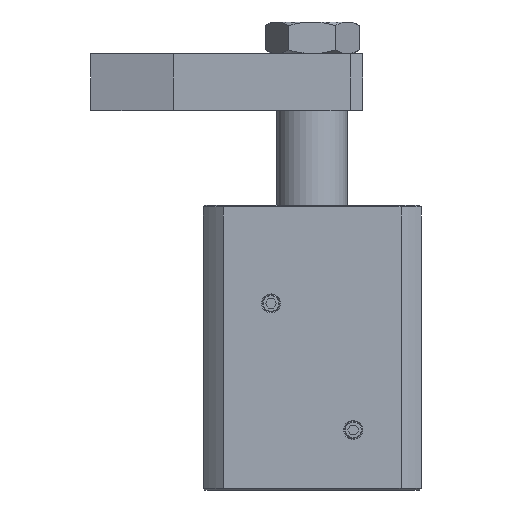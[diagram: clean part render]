
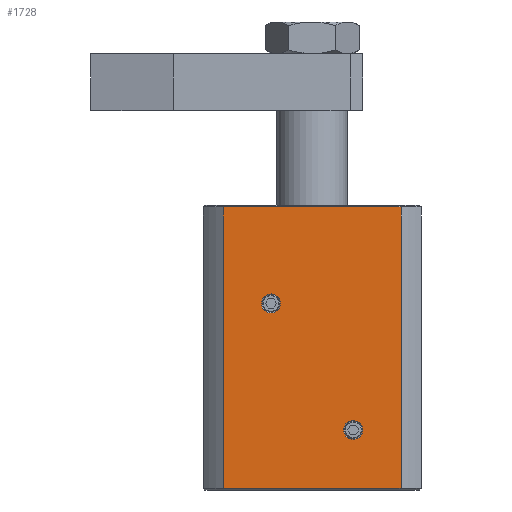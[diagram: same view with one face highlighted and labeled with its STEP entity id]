
A CAD part, front view. The second image highlights one B-rep face of the part: STEP entity #1728.
In plain terms, the highlighted planar face has unit normal (0, -1, 0).
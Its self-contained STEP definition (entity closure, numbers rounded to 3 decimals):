
#156=LINE('',#3045,#246);
#161=LINE('',#3106,#251);
#162=LINE('',#3108,#252);
#163=LINE('',#3110,#253);
#246=VECTOR('',#2499,1000.);
#251=VECTOR('',#2550,1000.);
#252=VECTOR('',#2553,1000.);
#253=VECTOR('',#2554,1000.);
#418=ORIENTED_EDGE('',*,*,#807,.T.);
#419=ORIENTED_EDGE('',*,*,#806,.T.);
#420=ORIENTED_EDGE('',*,*,#825,.F.);
#421=ORIENTED_EDGE('',*,*,#826,.T.);
#422=ORIENTED_EDGE('',*,*,#827,.T.);
#423=ORIENTED_EDGE('',*,*,#805,.T.);
#805=EDGE_CURVE('',#1024,#1022,#156,.T.);
#806=EDGE_CURVE('',#1025,#1025,#1168,.F.);
#807=EDGE_CURVE('',#1026,#1026,#1169,.F.);
#825=EDGE_CURVE('',#1037,#1022,#161,.T.);
#826=EDGE_CURVE('',#1037,#1038,#162,.T.);
#827=EDGE_CURVE('',#1038,#1024,#163,.T.);
#1022=VERTEX_POINT('',#3032);
#1024=VERTEX_POINT('',#3044);
#1025=VERTEX_POINT('',#3048);
#1026=VERTEX_POINT('',#3051);
#1037=VERTEX_POINT('',#3105);
#1038=VERTEX_POINT('',#3109);
#1168=CIRCLE('',#2220,3.);
#1169=CIRCLE('',#2222,3.);
#1289=EDGE_LOOP('',(#418));
#1290=EDGE_LOOP('',(#419));
#1291=EDGE_LOOP('',(#420,#421,#422,#423));
#1487=FACE_BOUND('',#1289,.T.);
#1488=FACE_BOUND('',#1290,.T.);
#1489=FACE_BOUND('',#1291,.T.);
#1646=PLANE('',#2242);
#1728=ADVANCED_FACE('',(#1487,#1488,#1489),#1646,.T.);
#2220=AXIS2_PLACEMENT_3D('',#3047,#2502,#2503);
#2222=AXIS2_PLACEMENT_3D('',#3050,#2506,#2507);
#2242=AXIS2_PLACEMENT_3D('',#3107,#2551,#2552);
#2499=DIRECTION('',(-1.,0.,0.));
#2502=DIRECTION('',(0.,-1.,0.));
#2503=DIRECTION('',(1.,0.,0.));
#2506=DIRECTION('',(0.,-1.,0.));
#2507=DIRECTION('',(1.,0.,0.));
#2550=DIRECTION('',(0.,0.,1.));
#2551=DIRECTION('',(0.,-1.,0.));
#2552=DIRECTION('',(1.,0.,0.));
#2553=DIRECTION('',(1.,0.,0.));
#2554=DIRECTION('',(0.,0.,1.));
#3032=CARTESIAN_POINT('',(-10.357,6.5,15.5));
#3044=CARTESIAN_POINT('',(45.857,6.5,15.5));
#3045=CARTESIAN_POINT('',(-10.357,6.5,15.5));
#3047=CARTESIAN_POINT('',(4.75,6.5,-15.));
#3048=CARTESIAN_POINT('',(7.75,6.5,-15.));
#3050=CARTESIAN_POINT('',(30.75,6.5,-55.));
#3051=CARTESIAN_POINT('',(33.75,6.5,-55.));
#3105=CARTESIAN_POINT('',(-10.357,6.5,-73.5));
#3106=CARTESIAN_POINT('',(-10.357,6.5,-74.));
#3107=CARTESIAN_POINT('',(-10.357,6.5,-74.));
#3108=CARTESIAN_POINT('',(45.857,6.5,-73.5));
#3109=CARTESIAN_POINT('',(45.857,6.5,-73.5));
#3110=CARTESIAN_POINT('',(45.857,6.5,-74.));
